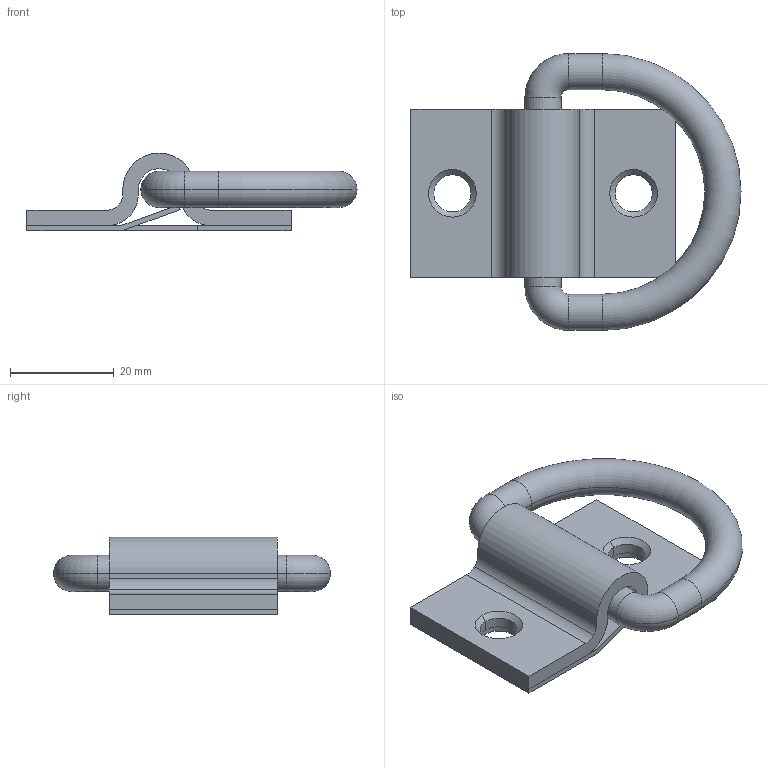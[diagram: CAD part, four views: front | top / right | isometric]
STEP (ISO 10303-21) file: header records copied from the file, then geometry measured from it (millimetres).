
FILE_DESCRIPTION((''),'2;1');
FILE_NAME('3106.stp','2023-10-10T11:07:10',(''),(''),'Mechanical Desktop 2006','Mechanical Desktop 2006',', , ');
FILE_SCHEMA(('CONFIG_CONTROL_DESIGN'));
Length unit declared in the file: millimetre
Products named in the file (4): 3106; TEIL1; TEIL2; TEIL3
Assembly tree (3 placements, depth 2):
  3106
    TEIL1
    TEIL2
    TEIL3
Bounding box: 63.75 x 53.5 x 15 mm (x, y, z)
Volume: 12826.5 mm3; surface area: 11051.4 mm2
Topology: 3 solids, 3 shells, 76 faces, 200 edges, 128 vertices
Faces by surface type: plane 34, cylinder 32, torus 6, cone 4
Entity records: 2507 total; most frequent: DIRECTION 434, CARTESIAN_POINT 408, ORIENTED_EDGE 400, EDGE_CURVE 200, AXIS2_PLACEMENT_3D 154, VERTEX_POINT 128, VECTOR 126, LINE 126
